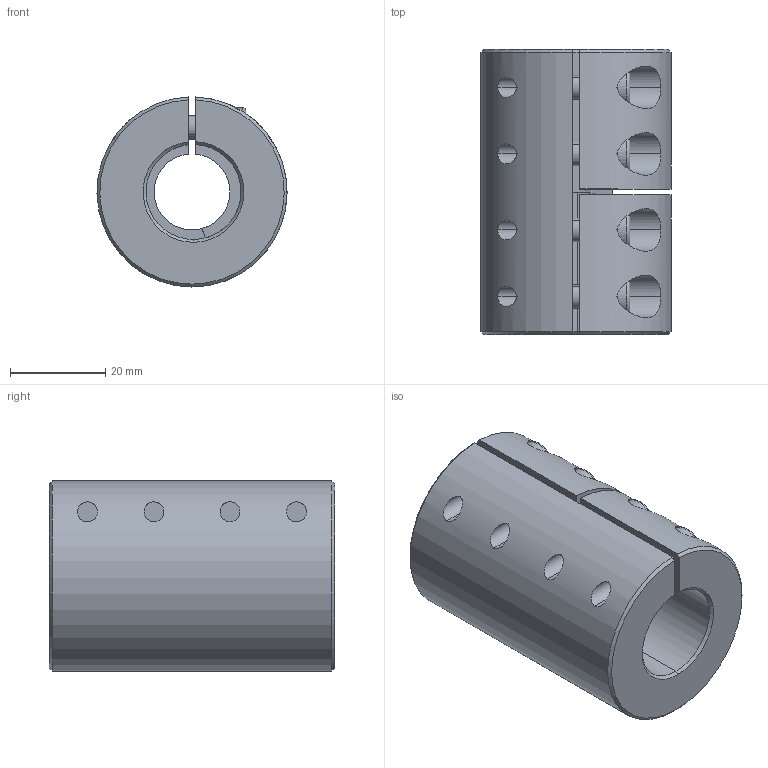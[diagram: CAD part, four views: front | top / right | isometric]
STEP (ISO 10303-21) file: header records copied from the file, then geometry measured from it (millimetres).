
FILE_DESCRIPTION (( 'STEP AP214' ), '1' );
FILE_NAME ('LL-B-D40L60-16-20½¨Ä£.STEP', '2022-07-22T01:03:34', ( '' ), ( '' ), 'SwSTEP 2.0', 'SolidWorks 2022', '' );
FILE_SCHEMA (( 'AUTOMOTIVE_DESIGN' ));
Length unit declared in the file: millimetre
Products named in the file (1): LL-B-D40L60-16-20膘耀
Bounding box: 40 x 60 x 39.99 mm (x, y, z)
Volume: 56947 mm3; surface area: 17412.6 mm2
Topology: 1 solids, 1 shells, 176 faces, 444 edges, 278 vertices
Faces by surface type: plane 84, cylinder 70, cone 14, torus 8
Entity records: 5801 total; most frequent: CARTESIAN_POINT 1475, DIRECTION 941, ORIENTED_EDGE 872, EDGE_CURVE 436, AXIS2_PLACEMENT_3D 368, VERTEX_POINT 278, EDGE_LOOP 208, VECTOR 205
